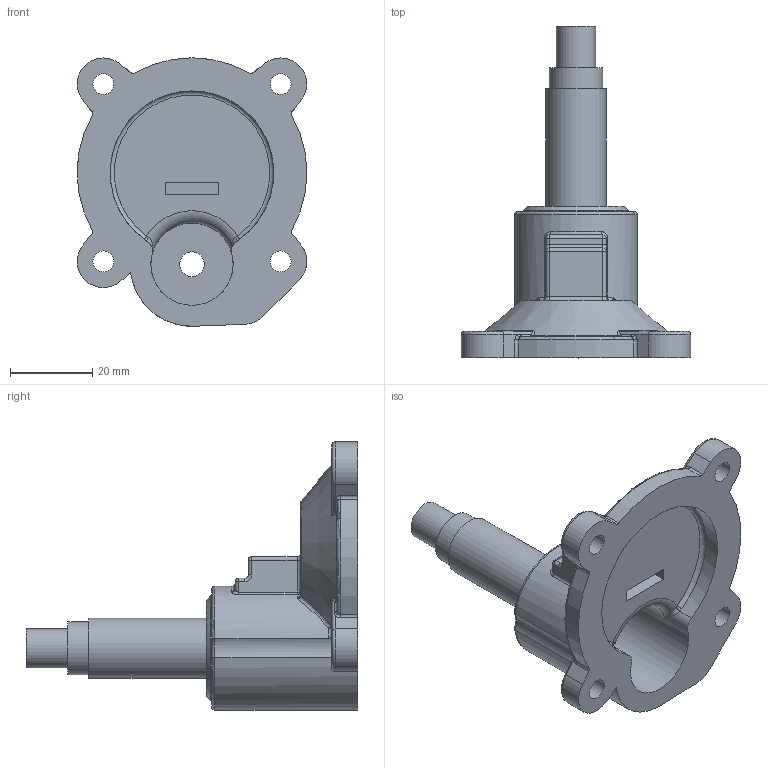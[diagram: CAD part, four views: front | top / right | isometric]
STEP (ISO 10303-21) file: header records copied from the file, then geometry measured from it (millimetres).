
FILE_DESCRIPTION( ( 'STEP Version 203' ), '1' );
FILE_NAME( ' ', '12/02/10 15:05:00', ( 'aho' ), ( ' ' ), 'PSStep 14.0', 'DesignModeler STEP Output', ' ' );
FILE_SCHEMA( ( 'AUTOMOTIVE_DESIGN { 1 0 10303 214 1 1 1 1 }' ) );
Length unit declared in the file: metre
Products named in the file (1): 1
Bounding box: 55.88 x 80.64 x 65.24 mm (x, y, z)
Volume: 36141.5 mm3; surface area: 16739.7 mm2
Topology: 1 solids, 1 shells, 200 faces, 465 edges, 267 vertices
Faces by surface type: cylinder 71, plane 44, torus 36, bspline 33, sphere 14, cone 2
Full cylindrical faces by diameter (mm): 5.08 x4, 6 x1, 8 x4, 9.525 x1, 12.954 x1, 14.605 x1, 20 x1, 25.4 x1
Entity records: 17418 total; most frequent: CARTESIAN_POINT 13181, ORIENTED_EDGE 870, DIRECTION 858, EDGE_CURVE 435, AXIS2_PLACEMENT_3D 365, VERTEX_POINT 261, EDGE_LOOP 236, FACE_OUTER_BOUND 214
